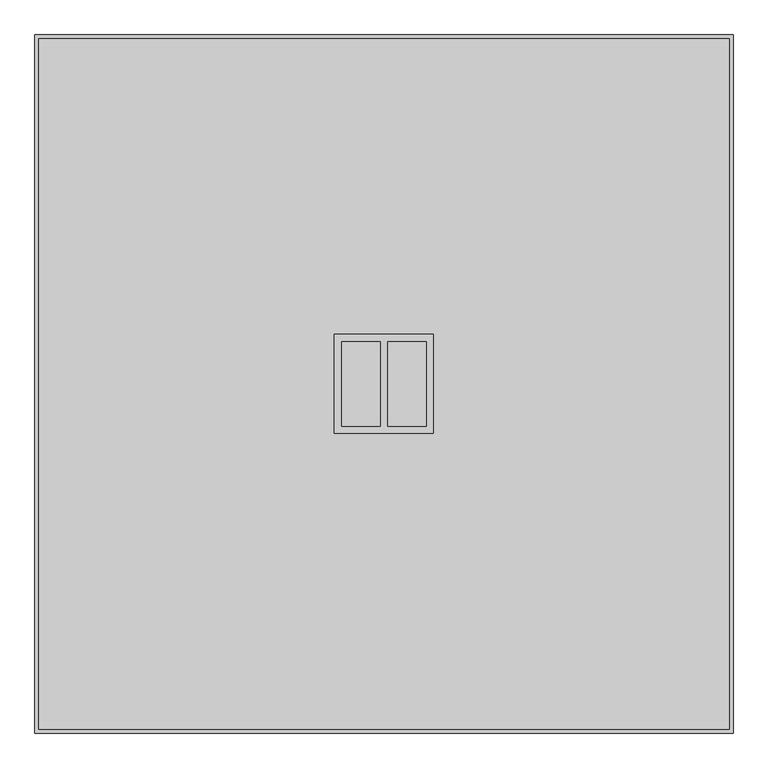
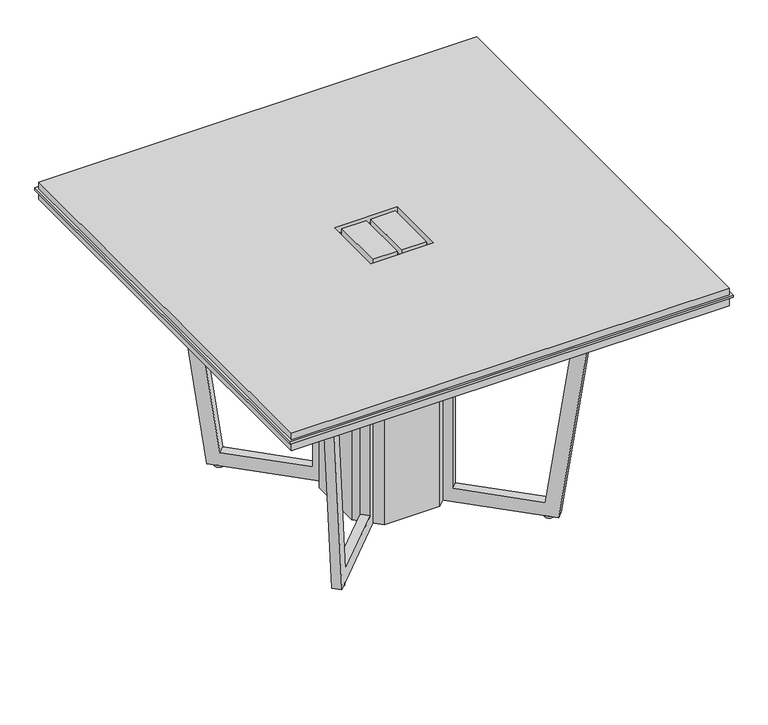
"""IFC4 building model written with IfcOpenShell, lengths in millimetres: furniture geometry, Knoll_Datesweiser_Tables_Meeting_Highline_Square : 48W Caesartone WireMgmt."""

from ifc_helpers import new_model, si_unit, point, frame, frame_2d, origin, origin_with_axes, place, context, project, spatial, polyline, circle_curve, trimmed, segment, composite_curve, outline, extrude, faceted_brep, source, transform, mapped, element, save


def furniture_89b3a7f0(model_context):
    return source(origin(), model_context, "Body", "SolidModel", [
        extrude(outline(polyline([(609.6, 609.6), (609.6, -609.6), (-609.6, -609.6), (-609.6, 609.6), (609.6, 609.6)])), frame((0.0, 0.0, 698.5), z_axis=(0.0, 0.0, 1.0), x_axis=(1.0, 0.0, 0.0)), (0.0, 0.0, 1.0), 25.4),
        extrude(outline(polyline([(609.6, 609.6), (609.6, -609.6), (-609.6, -609.6), (-609.6, 609.6), (609.6, 609.6)]), holes=[polyline([(-87.3125, -87.3125), (87.3125, -87.3125), (87.3125, 87.3125), (-87.3125, 87.3125), (-87.3125, -87.3125)])]), frame((0.0, 0.0, 730.25), z_axis=(0.0, 0.0, 1.0), x_axis=(1.0, 0.0, 0.0)), (0.0, 0.0, 1.0), 19.05),
        extrude(outline(polyline([(6.35, -74.6125), (6.35, 74.6125), (74.6125, 74.6125), (74.6125, -74.6125), (6.35, -74.6125)])), frame((0.0, 0.0, 730.25), z_axis=(0.0, 0.0, 1.0), x_axis=(1.0, 0.0, 0.0)), (0.0, 0.0, 1.0), 19.05),
        extrude(outline(polyline([(-6.35, 74.6125), (-6.35, -74.6125), (-74.6125, -74.6125), (-74.6125, 74.6125), (-6.35, 74.6125)])), frame((0.0, 0.0, 730.25), z_axis=(0.0, 0.0, 1.0), x_axis=(1.0, 0.0, 0.0)), (0.0, 0.0, 1.0), 19.05),
        extrude(outline(polyline([(615.95, 615.95), (615.95, -615.95), (-615.95, -615.95), (-615.95, 615.95), (615.95, 615.95)]), holes=[polyline([(-87.3125, -87.3125), (87.3125, -87.3125), (87.3125, 87.3125), (-87.3125, 87.3125), (-87.3125, -87.3125)])]), frame((0.0, 0.0, 723.9), z_axis=(0.0, 0.0, 1.0), x_axis=(1.0, 0.0, 0.0)), (0.0, 0.0, 1.0), 6.35),
        extrude(outline(polyline([(6.35, -74.6125), (6.35, 74.6125), (74.6125, 74.6125), (74.6125, -74.6125), (6.35, -74.6125)])), frame((0.0, 0.0, 723.9), z_axis=(0.0, 0.0, 1.0), x_axis=(1.0, 0.0, 0.0)), (0.0, 0.0, 1.0), 6.35),
        extrude(outline(polyline([(-6.35, 74.6125), (-6.35, -74.6125), (-74.6125, -74.6125), (-74.6125, 74.6125), (-6.35, 74.6125)])), frame((0.0, 0.0, 723.9), z_axis=(0.0, 0.0, 1.0), x_axis=(1.0, 0.0, 0.0)), (0.0, 0.0, 1.0), 6.35),
        extrude(outline(composite_curve([segment(trimmed(circle_curve(frame_2d((-291.4942533, -291.4942533)), 12.7), [point((-278.7942533, -291.4942533))], [point((-304.1942533, -291.4942533))], False, "CARTESIAN"), True, "CONTINUOUS"), segment(trimmed(circle_curve(frame_2d((-291.4942533, -291.4942533)), 12.7), [point((-304.1942533, -291.4942533))], [point((-278.7942533, -291.4942533))], False, "CARTESIAN"), True, "CONTINUOUS")], self_intersect=False)), origin_with_axes(), (0.0, 0.0, 1.0), 5.9867797),
        extrude(outline(composite_curve([segment(trimmed(circle_curve(frame_2d((-291.4942533, 291.4942533)), 12.7), [point((-278.7942533, 291.4942533))], [point((-304.1942533, 291.4942533))], False, "CARTESIAN"), True, "CONTINUOUS"), segment(trimmed(circle_curve(frame_2d((-291.4942533, 291.4942533)), 12.7), [point((-304.1942533, 291.4942533))], [point((-278.7942533, 291.4942533))], False, "CARTESIAN"), True, "CONTINUOUS")], self_intersect=False)), origin_with_axes(), (0.0, 0.0, 1.0), 5.9867797),
        extrude(outline(composite_curve([segment(trimmed(circle_curve(frame_2d((291.4942533, -291.4942533)), 12.7), [point((304.1942533, -291.4942533))], [point((278.7942533, -291.4942533))], False, "CARTESIAN"), True, "CONTINUOUS"), segment(trimmed(circle_curve(frame_2d((291.4942533, -291.4942533)), 12.7), [point((278.7942533, -291.4942533))], [point((304.1942533, -291.4942533))], False, "CARTESIAN"), True, "CONTINUOUS")], self_intersect=False)), origin_with_axes(), (0.0, 0.0, 1.0), 5.9867797),
        extrude(outline(composite_curve([segment(trimmed(circle_curve(frame_2d((291.4942533, 291.4942533)), 12.7), [point((304.1942533, 291.4942533))], [point((278.7942533, 291.4942533))], False, "CARTESIAN"), True, "CONTINUOUS"), segment(trimmed(circle_curve(frame_2d((291.4942533, 291.4942533)), 12.7), [point((278.7942533, 291.4942533))], [point((304.1942533, 291.4942533))], False, "CARTESIAN"), True, "CONTINUOUS")], self_intersect=False)), origin_with_axes(), (0.0, 0.0, 1.0), 5.9867797),
        extrude(outline(polyline([(687.3294598, 0.0), (687.7189281, -302.8812361), (-4.9389753, -400.2213524), (-4.9386158, -361.7469045), (649.4754872, -269.7812402), (649.4776515, -38.0996402), (-4.9355924, -38.0935268), (-4.9352365, 0.0), (687.3294598, 0.0)])), frame((87.5574969, -105.5180091, 693.5647877), z_axis=(0.7071067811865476, 0.7071067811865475, 0.0), x_axis=(-6.605612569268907e-06, 6.605612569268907e-06, -0.9999999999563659)), (0.0, 0.0, 1.0), 25.4),
        extrude(outline(polyline([(687.3320105, 273.0371574), (-4.9326857, 273.0500913), (-4.9323299, 311.1436182), (649.480914, 311.1375048), (649.4830783, 542.8191048), (-4.9293064, 634.7969958), (-4.928947, 673.2714438), (687.7271376, 575.9183862), (687.3320105, 273.0371574)])), frame((87.5574969, -105.5180091, 693.5647877), z_axis=(0.7071067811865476, 0.7071067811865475, 0.0), x_axis=(-6.605612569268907e-06, 6.605612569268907e-06, -0.9999999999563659)), (0.0, 0.0, 1.0), 25.4),
        faceted_brep([(-134.8689207, 77.8517251, 679.2551774), (-134.8689207, -77.8517528, 679.2551774), (-115.3405882, -97.3800759, 679.2551774), (-105.5179146, -87.5574023, 679.2551774), (-87.5574023, -105.5179146, 679.2551774), (-97.3800716, -115.3405838, 679.2551774), (-77.8517251, -134.8689207, 679.2551774), (77.8517251, -134.8689207, 679.2551774), (134.8689207, -77.8517528, 679.2551774), (134.8689207, 77.8517251, 679.2551774), (115.3405838, 97.3800716, 679.2551774), (105.5179146, 87.5574023, 679.2551774), (87.5574023, 105.5179146, 679.2551774), (97.3800759, 115.3405882, 679.2551774), (77.8517528, 134.8689207, 679.2551774), (-77.8517528, 134.8689207, 679.2551774), (-134.8689207, 77.8517251, 5.8810183), (-77.8517528, 134.8689207, 5.8810183), (77.8517528, 134.8689207, 5.8810183), (134.8689207, 77.8517251, 5.8810183), (134.8689207, -77.8517528, 5.8810183), (77.8517251, -134.8689207, 5.8810183), (-77.8517251, -134.8689207, 5.8810183), (-134.8689207, -77.8517528, 5.8810183), (-97.3800716, -115.3405838, 6.2173274), (-115.3405882, -97.3800759, 6.2173274), (97.3800759, 115.3405882, 6.2173274), (115.3405838, 97.3800716, 6.2173274), (87.5575295, 105.5180417, 698.5000242), (114.4937206, 132.4542329, 698.5000242), (114.4937206, 132.4542329, 44.0867803), (278.3173511, 296.2778633, 44.0867803), (343.3512187, 361.311731, 698.5000242), (370.5567618, 388.517274, 698.5000242), (301.72233, 319.6828422, 5.8430302), (-319.6828422, -301.72233, 5.8430302), (-388.517274, -370.5567618, 698.5000242), (-361.311731, -343.3512187, 698.5000242), (-296.2778633, -278.3173511, 44.0867803), (-132.4542329, -114.4937206, 44.0867803), (-132.4542329, -114.4937206, 698.5000242), (-105.5180417, -87.5575295, 698.5000242), (319.6828422, 301.72233, 5.8430302), (388.517274, 370.5567618, 698.5000242), (361.311731, 343.3512187, 698.5000242), (296.2778633, 278.3173511, 44.0867803), (132.4542329, 114.4937206, 44.0867803), (132.4542329, 114.4937206, 698.5000242), (105.5180417, 87.5575295, 698.5000242), (-87.5575295, -105.5180417, 698.5000242), (-114.4937206, -132.4542329, 698.5000242), (-114.4937206, -132.4542329, 44.0867803), (-278.3173511, -296.2778633, 44.0867803), (-343.3512187, -361.311731, 698.5000242), (-370.5567618, -388.517274, 698.5000242), (-301.72233, -319.6828422, 5.8430302)], [[[0, 1, 2, 3, 4, 5, 6, 7, 8, 9, 10, 11, 12, 13, 14, 15]], [[16, 17, 18, 19, 20, 21, 22, 23]], [[1, 0, 16, 23]], [[23, 22, 6, 5, 24, 25, 2, 1]], [[7, 6, 22, 21]], [[8, 7, 21, 20]], [[9, 8, 20, 19]], [[19, 18, 14, 13, 26, 27, 10, 9]], [[15, 14, 18, 17]], [[0, 15, 17, 16]], [[28, 29, 30, 31, 32, 33, 34, 26, 13, 12]], [[35, 36, 37, 38, 39, 40, 41, 3, 2, 25]], [[42, 43, 44, 45, 46, 47, 48, 11, 10, 27]], [[49, 50, 51, 52, 53, 54, 55, 24, 5, 4]], [[31, 30, 46, 45]], [[32, 31, 45, 44]], [[33, 32, 44, 43]], [[34, 33, 43, 42]], [[34, 42, 27, 26]], [[48, 28, 12, 11]], [[29, 28, 48, 47]], [[30, 29, 47, 46]], [[55, 35, 25, 24]], [[36, 35, 55, 54]], [[37, 36, 54, 53]], [[38, 37, 53, 52]], [[39, 38, 52, 51]], [[40, 39, 51, 50]], [[41, 40, 50, 49]], [[41, 49, 4, 3]]]),
    ])


if __name__ == "__main__":
    model = new_model("IFC4")
    model_context = context("Model", 3, world=origin())
    ifc_project = project(units=[si_unit("LENGTHUNIT", "METRE", prefix="MILLI")], contexts=[model_context])
    site = spatial("IfcSite", under=ifc_project)
    building = spatial("IfcBuilding", under=site)
    placement = place(None, origin())
    furniture_shape = furniture_89b3a7f0(model_context)
    element("IfcFurniture", 1, ObjectType="Knoll_Datesweiser_Tables_Meeting_Highline_Square : 48W Caesartone WireMgmt", at=placement, inside=building, context=model_context, shape_type="MappedRepresentation", body=[
        mapped(furniture_shape, transform((0.0, 0.0, 0.0), x_axis=(1.0, 0.0, 0.0), y_axis=(0.0, 1.0, 0.0), z_axis=(0.0, 0.0, 1.0))),
    ])
    save(model, "model.ifc")
